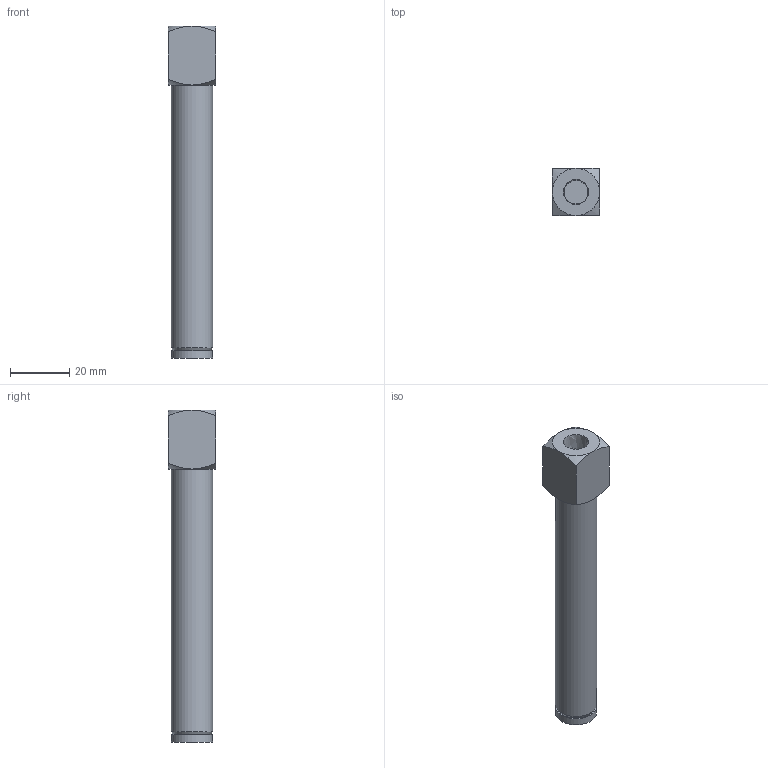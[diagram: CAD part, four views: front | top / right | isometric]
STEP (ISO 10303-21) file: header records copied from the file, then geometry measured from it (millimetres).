
FILE_DESCRIPTION((''),'2;1');
FILE_NAME('K:\Technik\CAD-Daten\EOAT\GR03_\GR03.011\GR03.011A.stp','2007-09-07T12:13:57',('RKob'),(''),'Autodesk Inventor 11','Autodesk Inventor 11','');
FILE_SCHEMA(('AUTOMOTIVE_DESIGN { 1 0 10303 214 1 1 1 1 }'));
Length unit declared in the file: millimetre
Products named in the file (3): GR03; 77
Assembly tree (2 placements, depth 2):
  GR03
    GR03
    77
Bounding box: 16 x 16 x 112.5 mm (x, y, z)
Volume: 13784.2 mm3; surface area: 9050.2 mm2
Topology: 2 solids, 2 shells, 36 faces, 75 edges, 47 vertices
Faces by surface type: plane 17, cone 10, bspline 6, cylinder 3
Full cylindrical faces by diameter (mm): 9.73 x1, 13.9 x1, 14 x1
Entity records: 1004 total; most frequent: CARTESIAN_POINT 255, DIRECTION 142, ORIENTED_EDGE 126, EDGE_CURVE 63, AXIS2_PLACEMENT_3D 60, EDGE_LOOP 54, VERTEX_POINT 45, FACE_OUTER_BOUND 36
